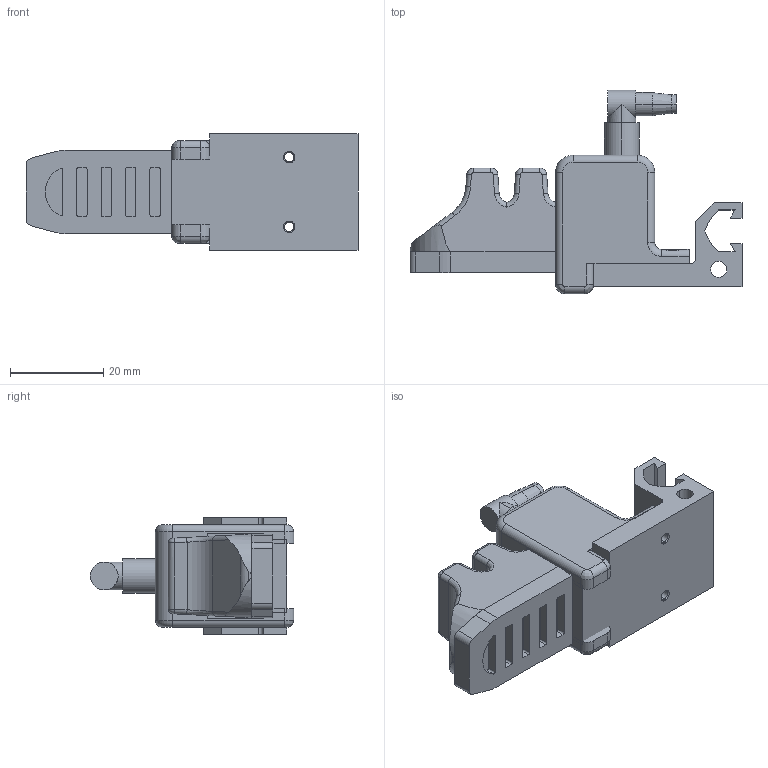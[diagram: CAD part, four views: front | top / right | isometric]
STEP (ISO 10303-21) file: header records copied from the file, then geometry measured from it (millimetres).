
FILE_DESCRIPTION (( 'STEP AP214' ), '1' );
FILE_NAME ('GFM-B3V5.STEP', '2019-12-04T03:39:13', ( '微软用户' ), ( '微软中国' ), 'SwSTEP 2.0', 'SolidWorks 2016', '' );
FILE_SCHEMA (( 'AUTOMOTIVE_DESIGN' ));
Length unit declared in the file: millimetre
Products named in the file (1): GFM-B3V5
Bounding box: 71.33 x 43.75 x 25 mm (x, y, z)
Volume: 25790.8 mm3; surface area: 14369.6 mm2
Topology: 4 solids, 4 shells, 257 faces, 640 edges, 398 vertices
Faces by surface type: cylinder 115, plane 98, bspline 24, cone 14, torus 6
Entity records: 11858 total; most frequent: CARTESIAN_POINT 2967, ORIENTED_EDGE 1280, DIRECTION 1238, EDGE_CURVE 640, AXIS2_PLACEMENT_3D 446, VERTEX_POINT 398, LINE 346, VECTOR 346
